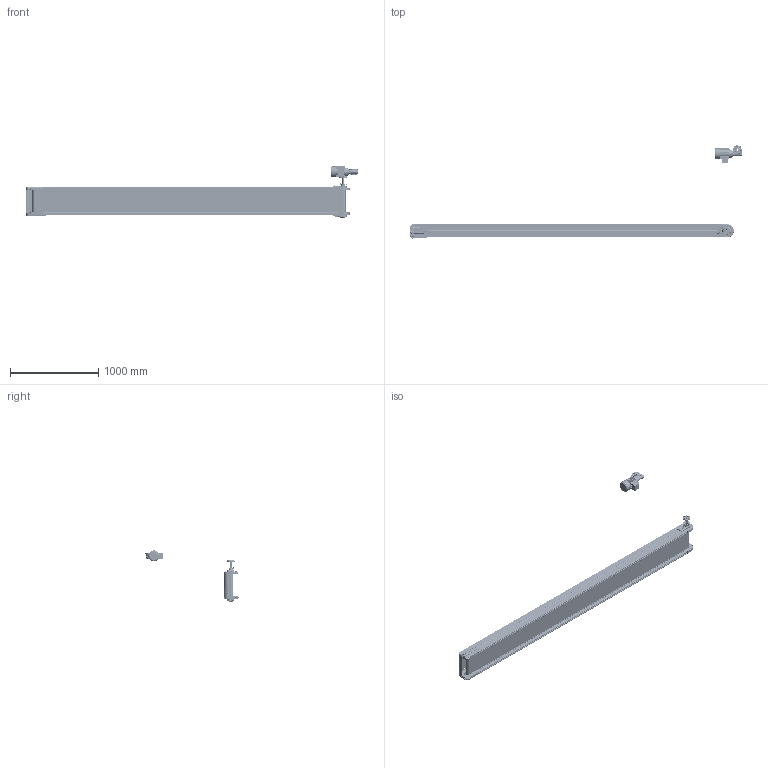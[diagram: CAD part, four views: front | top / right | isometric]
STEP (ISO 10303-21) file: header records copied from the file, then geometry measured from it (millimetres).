
FILE_DESCRIPTION (( 'STEP AP203' ), '1' );
FILE_NAME ('NASTRO_STAMPAGGIO_PLASTICA.step', '2026-04-28T19:52:58', ( 'Utente Windows' ), ( '' ), 'SwSTEP 2.0', 'SolidWorks 2024', '' );
FILE_SCHEMA (( 'CONFIG_CONTROL_DESIGN' ));
Length unit declared in the file: millimetre
Products named in the file (33): 084.831.004; NASTRO_STAMPAGGIO_PLASTICA; CH04P_DX; TAPPETO_P; 084.831.001_Default<A macchina>; 084.302.038_084.302.004; 084.808.012; 084.803.018; 084.831.018.300; 084.831.017; 0412TRSEA2; 084.802.062; RONDELLE UNI 6592_6.4x12.5 UNI 6592; VITI TE UNI 5739_M6x120 UNI5739; RONDELLE FASCIA LARGA UNI 6593_6.4x24 UNI 6593; TELAIO_P_Default<A macchina>; 084.802.034_084.802.034; 084.831.040.250; CHIAVETTE_A 6x6x60 UNI 6604-69; 084.831.020.300; 084.802.061; VITI TE UNI 5739_M6x16 UNI 5739; VITI TCEI UNI 5931_M5x12 UNI 5931; 084.301.000 VITI ALUSIC_084.301.003; 084.831.023; 084.831.KD.44.250_DX; RONDELLE UNI 6592_8.4x17 UNI 6592; 361102 serie 36; 084.831.024; 084.831.KI.250; 084.802.071; 084.831.031; VITI TE UNI 5739_M8x35 UNI 5739
Assembly tree (74 placements, depth 3):
  NASTRO_STAMPAGGIO_PLASTICA
    TAPPETO_P
    TELAIO_P_Default<A macchina>
    084.831.KI.250
      084.831.001_Default<A macchina>  x2
      084.831.024  x2
      361102 serie 36  x2
      084.831.018.300
      VITI TE UNI 5739_M6x120 UNI5739  x2
      RONDELLE UNI 6592_6.4x12.5 UNI 6592  x2
      084.301.000 VITI ALUSIC_084.301.003  x2
      084.831.031
      084.831.040.250
      084.831.023  x4
      0412TRSEA2  x12
    084.831.KD.44.250_DX
      084.831.004  x2
      084.831.020.300
      084.831.017  x2
      084.802.071
      084.301.000 VITI ALUSIC_084.301.003
      084.802.034_084.802.034  x2
      084.802.061
      VITI TE UNI 5739_M6x16 UNI 5739  x5
      CHIAVETTE_A 6x6x60 UNI 6604-69
      RONDELLE FASCIA LARGA UNI 6593_6.4x24 UNI 6593
      084.808.012
      RONDELLE UNI 6592_8.4x17 UNI 6592
      084.802.062
      084.803.018
      0412TRSEA2  x10
      VITI TCEI UNI 5931_M5x12 UNI 5931  x4
      VITI TE UNI 5739_M8x35 UNI 5739
      084.302.038_084.302.004  x2
    CH04P_DX
Bounding box: 3767.21 x 1056.06 x 580.2 mm (x, y, z)
Volume: 17008280.3 mm3; surface area: 15769373.7 mm2
Topology: 97 solids, 104 shells, 9441 faces, 25409 edges, 16285 vertices
Faces by surface type: plane 3945, cylinder 2982, cone 1168, bspline 833, torus 389, sphere 124
Entity records: 230635 total; most frequent: CARTESIAN_POINT 74904, ORIENTED_EDGE 33686, DIRECTION 29387, EDGE_CURVE 16843, VERTEX_POINT 10838, AXIS2_PLACEMENT_3D 10351, VECTOR 8685, LINE 8685
